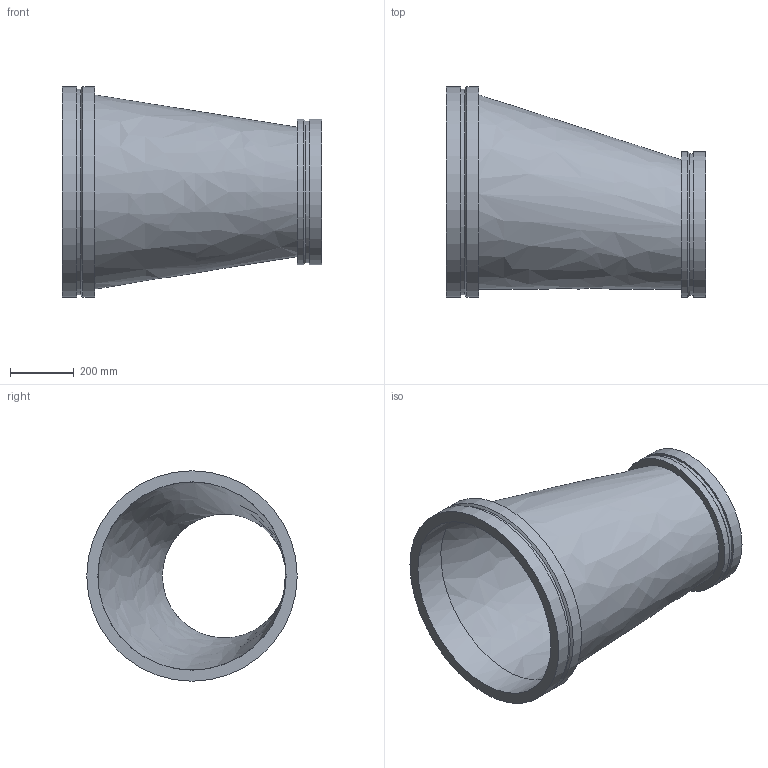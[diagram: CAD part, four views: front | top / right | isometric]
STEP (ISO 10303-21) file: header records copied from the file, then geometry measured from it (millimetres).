
FILE_DESCRIPTION(/* description */ ('VIC REDUCER ECCENTRIC No W51-VR','CAx-IF Rec.Pracs.---Representation and Presentation of Product Manufacturing Information (PMI)---4.0---2014-10-13'),/* implementation_level */ '2;1');
FILE_NAME(/* name */ 'C:\Users\kkamble\AppData\Roaming\Autodesk\ApplicationPlugins\Back Up\Victaulic_Vic-Ring_Reducer Eccentric_No W51 VR (AGR)\Victaulic_Vic-Ring_Reducer Eccentric_No W51 VR (AGR)_24.0x16.0 (600x400).stp',/* time_stamp */ '2020-09-10T11:49:16+05:00',/* author */ ('CONSTRUCTION PIPING SERVICES'),/* organization */ ('Victaulic'),/* preprocessor_version */ 'ST-DEVELOPER v17.2',/* originating_system */ 'Autodesk Inventor 2019',/* authorisation */ '');
FILE_SCHEMA (('AP242_MANAGED_MODEL_BASED_3D_ENGINEERING_MIM_LF { 1 0 10303 442 1 1 4 }'));
Length unit declared in the file: inch
Products named in the file (1): W51 VR-24.0x16.0
Bounding box: 812.8 x 660.4 x 660.4 mm (x, y, z)
Volume: 19198655.4 mm3; surface area: 2862230.6 mm2
Topology: 1 solids, 1 shells, 18 faces, 52 edges, 40 vertices
Faces by surface type: cylinder 8, plane 6, cone 2, bspline 2
Full cylindrical faces by diameter (mm): 388.823 x1, 444.5 x1, 457.2 x2, 590.55 x1, 645.922 x1, 660.4 x2
Entity records: 822 total; most frequent: CARTESIAN_POINT 164, DIRECTION 150, ORIENTED_EDGE 104, AXIS2_PLACEMENT_3D 70, EDGE_CURVE 52, CIRCLE 40, VERTEX_POINT 40, EDGE_LOOP 24
